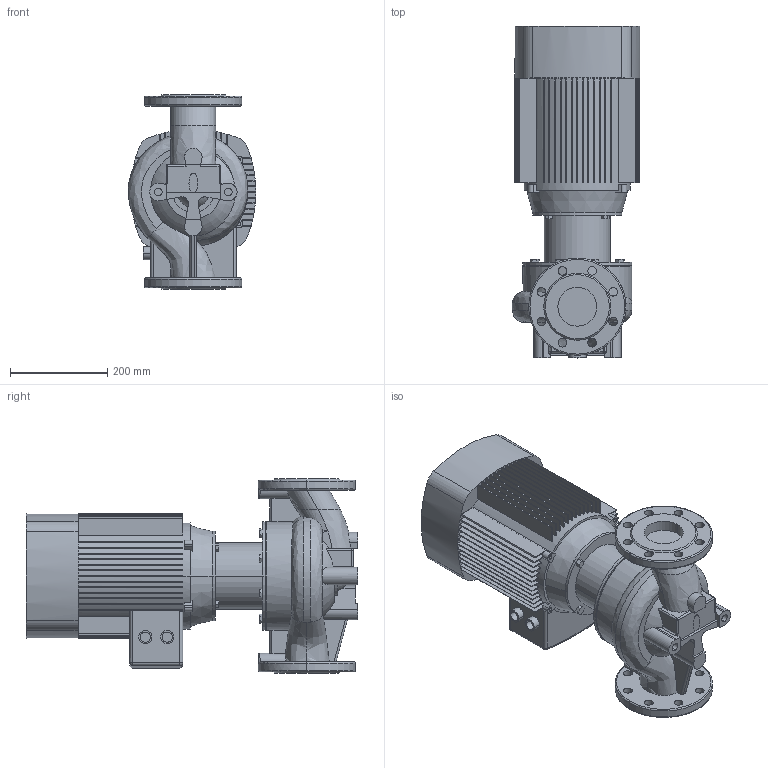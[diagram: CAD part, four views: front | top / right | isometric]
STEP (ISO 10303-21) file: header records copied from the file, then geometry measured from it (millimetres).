
FILE_DESCRIPTION (( 'STEP AP203' ), '1' );
FILE_NAME ('TD80-29G_2.STEP', '2022-05-02T18:35:12', ( '' ), ( '' ), 'SwSTEP 2.0', 'SolidWorks 2019', '' );
FILE_SCHEMA (( 'CONFIG_CONTROL_DESIGN' ));
Length unit declared in the file: millimetre
Products named in the file (4): ED_B14_YE2-132S2-2 (7.5); Pr_ch 80_TD80-29G_2; TD80-29G_2; Fon_80_TD80-29G_2
Assembly tree (3 placements, depth 2):
  TD80-29G_2
    Pr_ch 80_TD80-29G_2
    Fon_80_TD80-29G_2
    ED_B14_YE2-132S2-2 (7.5)
Bounding box: 262.35 x 683 x 400 mm (x, y, z)
Volume: 27019580.9 mm3; surface area: 1538182.6 mm2
Topology: 3 solids, 7 shells, 675 faces, 1816 edges, 1196 vertices
Faces by surface type: plane 430, cylinder 175, bspline 28, torus 25, cone 11, sphere 6
Entity records: 28098 total; most frequent: CARTESIAN_POINT 10562, ORIENTED_EDGE 3624, DIRECTION 3545, EDGE_CURVE 1812, AXIS2_PLACEMENT_3D 1251, VERTEX_POINT 1196, LINE 1043, VECTOR 1043
